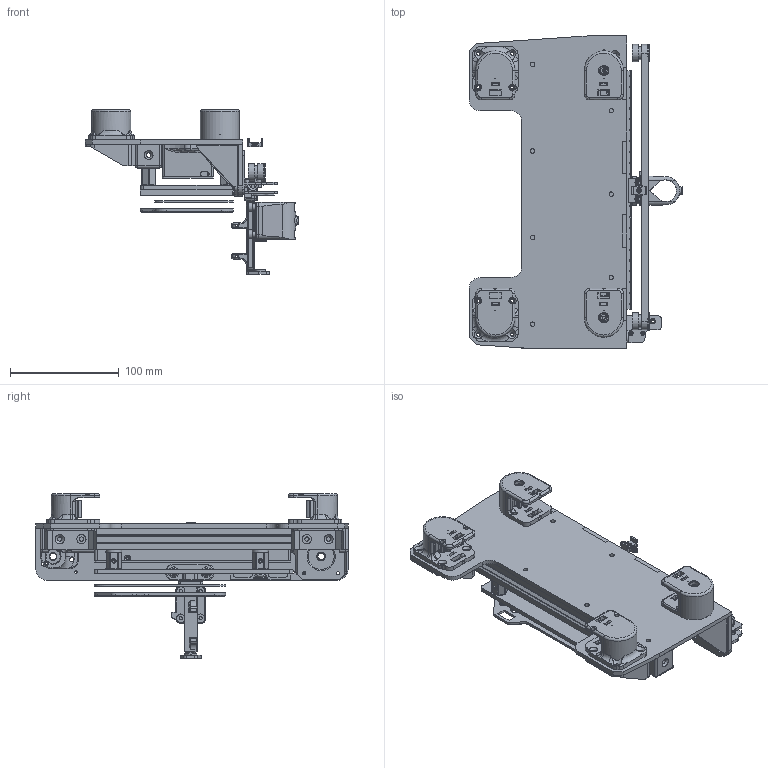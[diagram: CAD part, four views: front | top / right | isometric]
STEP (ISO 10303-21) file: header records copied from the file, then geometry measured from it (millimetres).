
FILE_DESCRIPTION(/* description */ (''),/* implementation_level */ '2;1');
FILE_NAME(/* name */ 'V2.stp',/* time_stamp */ '2026-03-11T12:10:47+03:00',/* author */ ('user'),/* organization */ (''),/* preprocessor_version */ 'ST-DEVELOPER v20.1',/* originating_system */ 'Autodesk Inventor 2026',/* authorisation */ '');
FILE_SCHEMA (('AUTOMOTIVE_DESIGN { 1 0 10303 214 3 1 1 }'));
Length unit declared in the file: millimetre
Products named in the file (1): Nema17H44
Bounding box: 196.75 x 287.58 x 152 mm (x, y, z)
Volume: 605439.9 mm3; surface area: 459453.9 mm2
Topology: 51 solids, 51 shells, 2908 faces, 7699 edges, 4907 vertices
Faces by surface type: plane 1143, cylinder 1085, bspline 286, torus 179, cone 178, sphere 37
Full cylindrical faces by diameter (mm): 2 x24, 2.4 x32, 2.5 x6, 2.8 x12, 3 x82, 3.3 x15, 3.7 x4, 4 x45, 4.2 x2, 5 x3, 5.5 x5, 5.7 x4, 6 x25, 6.5 x4, 7 x2, 7.2 x2, 7.5 x2, 7.6 x1, 8 x5, 8.1 x8, 9 x1, 11 x1, 12 x2, 12.2 x2, 13.1 x2, 15 x4, 16 x4, 24 x3
Entity records: 121239 total; most frequent: CARTESIAN_POINT 48260, ORIENTED_EDGE 15342, DIRECTION 14872, EDGE_CURVE 7671, AXIS2_PLACEMENT_3D 5387, VERTEX_POINT 4899, LINE 4098, VECTOR 4098
